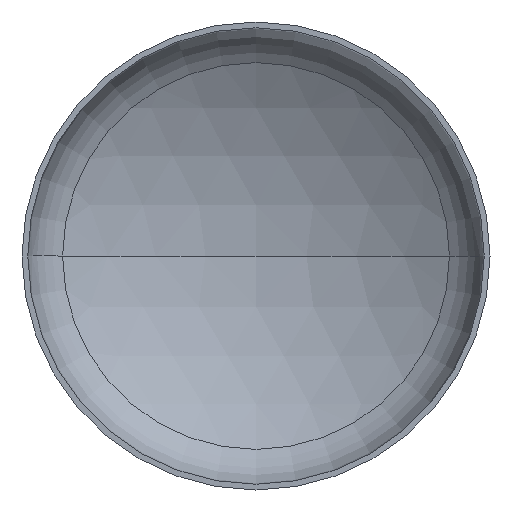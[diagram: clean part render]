
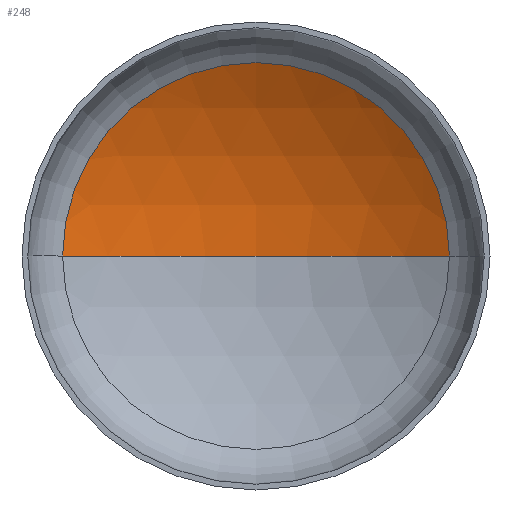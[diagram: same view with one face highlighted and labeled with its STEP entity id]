
A CAD part, front view. The second image highlights one B-rep face of the part: STEP entity #248.
In plain terms, the highlighted spherical face has radius 3040 mm.
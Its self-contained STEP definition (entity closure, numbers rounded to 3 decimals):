
#1 = DIRECTION ( 'NONE',  ( 0., -1., 0. ) ) ;
#10 = EDGE_LOOP ( 'NONE', ( #64, #27, #21 ) ) ;
#11 = AXIS2_PLACEMENT_3D ( 'NONE', #332, #262, #187 ) ;
#21 = ORIENTED_EDGE ( 'NONE', *, *, #135, .T. ) ;
#27 = ORIENTED_EDGE ( 'NONE', *, *, #136, .T. ) ;
#36 = AXIS2_PLACEMENT_3D ( 'NONE', #270, #172, #54 ) ;
#44 = VERTEX_POINT ( 'NONE', #254 ) ;
#46 = VERTEX_POINT ( 'NONE', #238 ) ;
#54 = DIRECTION ( 'NONE',  ( -1., 0., 0. ) ) ;
#59 = AXIS2_PLACEMENT_3D ( 'NONE', #278, #305, #167 ) ;
#60 = AXIS2_PLACEMENT_3D ( 'NONE', #392, #1, #348 ) ;
#64 = ORIENTED_EDGE ( 'NONE', *, *, #358, .F. ) ;
#75 = VERTEX_POINT ( 'NONE', #236 ) ;
#135 = EDGE_CURVE ( 'NONE', #75, #44, #301, .T. ) ;
#136 = EDGE_CURVE ( 'NONE', #46, #75, #183, .T. ) ;
#165 = SPHERICAL_SURFACE ( 'NONE', #36, 3040. ) ;
#167 = DIRECTION ( 'NONE',  ( -1., 0., 0. ) ) ;
#172 = DIRECTION ( 'NONE',  ( 0., 0., -1. ) ) ;
#183 = CIRCLE ( 'NONE', #59, 3040. ) ;
#187 = DIRECTION ( 'NONE',  ( 1., 0., 0. ) ) ;
#236 = CARTESIAN_POINT ( 'NONE',  ( 1570.151, 650.929, 0. ) ) ;
#238 = CARTESIAN_POINT ( 'NONE',  ( 0., 1087.81, 0. ) ) ;
#248 = ADVANCED_FACE ( 'NONE', ( #349 ), #165, .F. ) ;
#254 = CARTESIAN_POINT ( 'NONE',  ( -1570.151, 650.929, 0. ) ) ;
#262 = DIRECTION ( 'NONE',  ( 0., 0., 1. ) ) ;
#270 = CARTESIAN_POINT ( 'NONE',  ( 0., -1952.19, 0. ) ) ;
#278 = CARTESIAN_POINT ( 'NONE',  ( 0., -1952.19, 0. ) ) ;
#301 = CIRCLE ( 'NONE', #60, 1570.151 ) ;
#305 = DIRECTION ( 'NONE',  ( 0., 0., -1. ) ) ;
#332 = CARTESIAN_POINT ( 'NONE',  ( 0., -1952.19, 0. ) ) ;
#348 = DIRECTION ( 'NONE',  ( 1., 0., 0. ) ) ;
#349 = FACE_OUTER_BOUND ( 'NONE', #10, .T. ) ;
#358 = EDGE_CURVE ( 'NONE', #46, #44, #390, .T. ) ;
#390 = CIRCLE ( 'NONE', #11, 3040. ) ;
#392 = CARTESIAN_POINT ( 'NONE',  ( 0., 650.929, 0. ) ) ;
